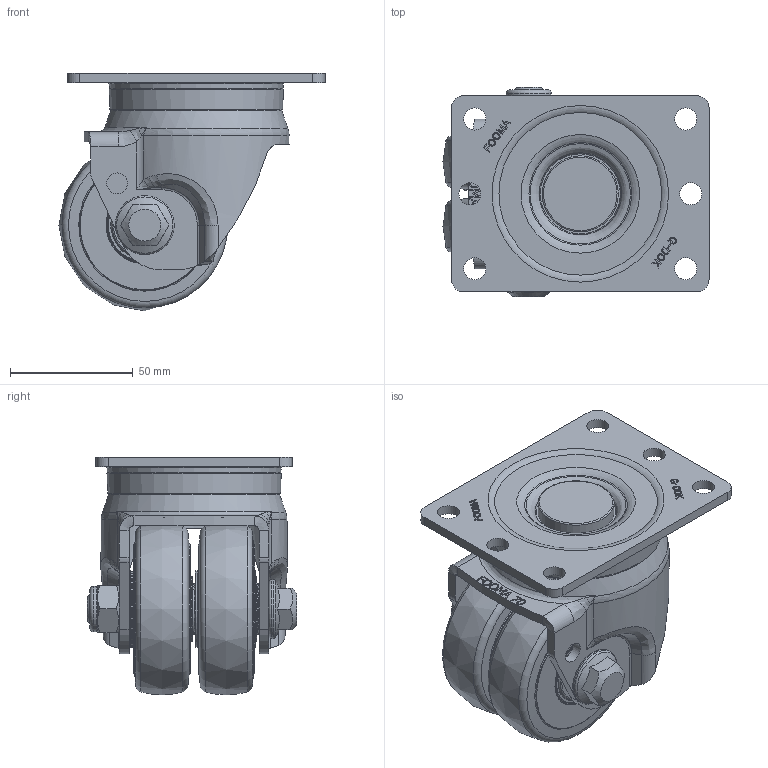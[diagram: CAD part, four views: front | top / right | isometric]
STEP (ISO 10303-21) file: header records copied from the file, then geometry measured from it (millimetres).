
FILE_DESCRIPTION(/* description */ (''),/* implementation_level */ '2;1');
FILE_NAME(/* name */ 'C:\Users\admin\Desktop\JYS\14.제품도면\JS-SERIES\3D\GAJSD-70-ASF-GUD_HP.stp',/* time_stamp */ '2023-07-24T18:06:46+09:00',/* author */ ('admin'),/* organization */ (''),/* preprocessor_version */ 'ST-DEVELOPER v18.1',/* originating_system */ 'Autodesk Inventor 2021',/* authorisation */ '');
FILE_SCHEMA (('AUTOMOTIVE_DESIGN { 1 0 10303 214 3 1 1 }'));
Length unit declared in the file: millimetre
Products named in the file (1): GAJSD-70-ASF-GUD_HP
Bounding box: 108.5 x 85.3 x 97 mm (x, y, z)
Volume: 306661.5 mm3; surface area: 68956.6 mm2
Topology: 1 solids, 1 shells, 525 faces, 1380 edges, 906 vertices
Faces by surface type: plane 218, bspline 157, torus 67, cylinder 51, cone 32
Full cylindrical faces by diameter (mm): 8.5 x1, 9 x6, 14.9 x2, 18.5 x1, 21 x2, 24 x1, 28 x1, 31 x3, 61 x1
Entity records: 19311 total; most frequent: CARTESIAN_POINT 6548, ORIENTED_EDGE 2752, DIRECTION 2178, EDGE_CURVE 1376, VERTEX_POINT 906, AXIS2_PLACEMENT_3D 787, LINE 604, VECTOR 604
